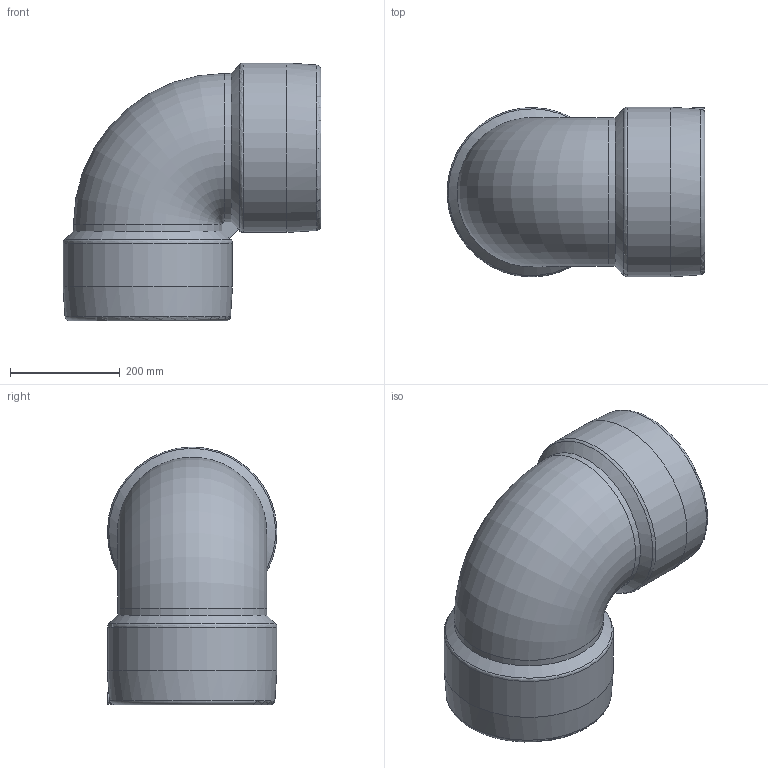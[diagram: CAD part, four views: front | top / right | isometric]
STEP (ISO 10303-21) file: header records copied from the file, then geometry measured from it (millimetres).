
FILE_DESCRIPTION(/* description */ ('Unknown'),/* implementation_level */ '2;1');
FILE_NAME(/* name */ 'GE9P250C',/* time_stamp */ '2021-04-22T15:36:59+02:00',/* author */ ('Unknown'),/* organization */ ('Unknown'),/* preprocessor_version */ 'ST-DEVELOPER v16.7',/* originating_system */ 'Solid Edge',/* authorisation */ 'Unknown');
FILE_SCHEMA (('AUTOMOTIVE_DESIGN {1 0 10303 214 3 1 1}'));
Length unit declared in the file: millimetre
Products named in the file (1): GE9P250C
Bounding box: 470.5 x 309.5 x 470.5 mm (x, y, z)
Volume: 14328207.5 mm3; surface area: 1017965.8 mm2
Topology: 1 solids, 1 shells, 41 faces, 94 edges, 63 vertices
Faces by surface type: plane 15, cylinder 14, torus 6, cone 6
Full cylindrical faces by diameter (mm): 4 x2, 6 x2, 12 x2, 215 x2, 250 x2, 309 x2
Entity records: 1064 total; most frequent: CARTESIAN_POINT 267, DIRECTION 164, ORIENTED_EDGE 118, AXIS2_PLACEMENT_3D 79, EDGE_LOOP 73, FACE_BOUND 73, EDGE_CURVE 59, VERTEX_POINT 50
